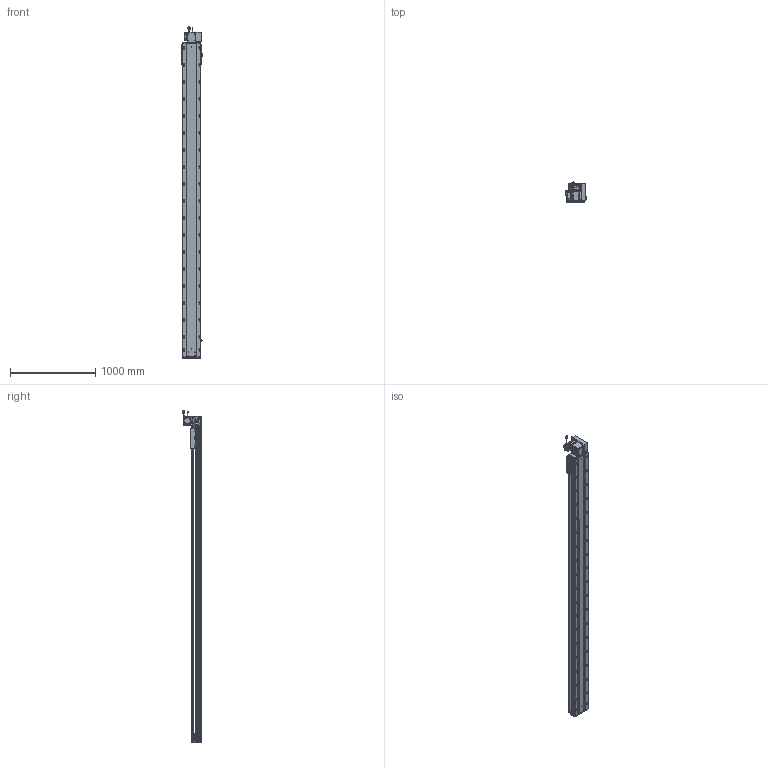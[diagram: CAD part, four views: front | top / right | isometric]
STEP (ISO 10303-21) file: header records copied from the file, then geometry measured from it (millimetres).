
FILE_DESCRIPTION (( 'STEP AP203' ), '1' );
FILE_NAME ('RY220-T-300-UR.SLDASM_3350.step', '2022-07-25T08:46:41', ( '' ), ( '' ), 'SwSTEP 2.0', 'SolidWorks 2016', '' );
FILE_SCHEMA (( 'CONFIG_CONTROL_DESIGN' ));
Length unit declared in the file: millimetre
Products named in the file (14): 滅袉蝶18-15; RY220-同步轮副支撑座6304×2; RY220-俋离672覜茼んえ; 覜茼ん672; 怢湛750W_ECMA-CX0807ES; RY220-T-300-奻裔啣_3350; RY220圉猾敕々湍臏賑輸; RY220-T-蛌殏萇儂假蚾啣(750W); RY220-T-300-UR.SLDASM_3350; RY220-T-湍謫欶(鍼踢); 110A-T-肮祭謫釱傷裔; RY220-T菁釱-300_3350; RY220翋肮祭謫釱; RY220翋肮祭謫裔啣
Assembly tree (18 placements, depth 2):
  RY220-T-300-UR.SLDASM_3350
    RY220-T菁釱-300_3350
    RY220翋肮祭謫釱
    覜茼ん672  x3
    RY220圉猾敕々湍臏賑輸
    RY220-T-300-奻裔啣_3350
    RY220-俋离672覜茼んえ
    滅袉蝶18-15  x3
    RY220翋肮祭謫裔啣  x2
    110A-T-肮祭謫釱傷裔
    怢湛750W_ECMA-CX0807ES
    RY220-T-湍謫欶(鍼踢)
    RY220-T-蛌殏萇儂假蚾啣(750W)
    RY220-同步轮副支撑座6304×2
Bounding box: 238.7 x 231.74 x 3903.27 mm (x, y, z)
Volume: 27468394 mm3; surface area: 8537511.6 mm2
Topology: 19 solids, 19 shells, 3104 faces, 8591 edges, 5364 vertices
Faces by surface type: cylinder 1548, plane 1069, cone 405, bspline 56, sphere 16, torus 10
Entity records: 103555 total; most frequent: CARTESIAN_POINT 29131, ORIENTED_EDGE 15354, DIRECTION 14900, EDGE_CURVE 7677, AXIS2_PLACEMENT_3D 5402, VERTEX_POINT 4988, LINE 4096, VECTOR 4096
